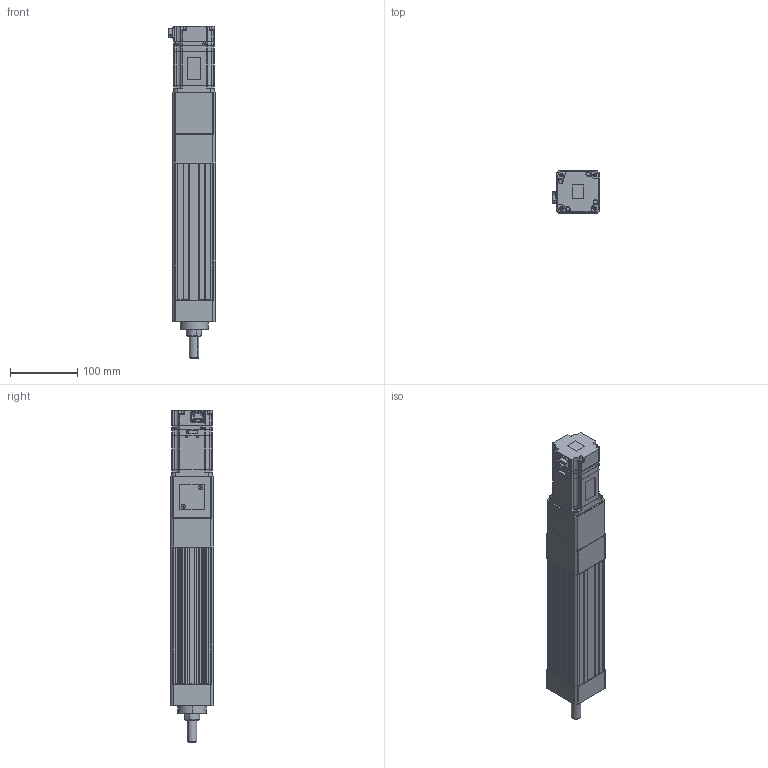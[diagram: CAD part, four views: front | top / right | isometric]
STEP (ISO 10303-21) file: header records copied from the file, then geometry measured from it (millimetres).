
FILE_DESCRIPTION (( 'STEP AP203' ), '1' );
FILE_NAME ('ANS065R-S100-05(10)(20)-W40-M.STEP', '2019-03-02T12:14:53', ( 'user' ), ( '' ), 'SwSTEP 2.0', 'SolidWorks 2013', '' );
FILE_SCHEMA (( 'CONFIG_CONTROL_DESIGN' ));
Length unit declared in the file: millimetre
Products named in the file (4): ANS065 ROD ST100-M; ANS065R-S100-05(10)(20)-W40-M; ANS065R S100 VER2; sgmjv_04a_a21
Assembly tree (3 placements, depth 2):
  ANS065R-S100-05(10)(20)-W40-M
    ANS065R S100 VER2
    sgmjv_04a_a21
    ANS065 ROD ST100-M
Bounding box: 71.3 x 65 x 494.6 mm (x, y, z)
Volume: 1230995.1 mm3; surface area: 243989.9 mm2
Topology: 3 solids, 7 shells, 1080 faces, 2853 edges, 1837 vertices
Faces by surface type: plane 636, cylinder 358, cone 86
Entity records: 33539 total; most frequent: CARTESIAN_POINT 5970, DIRECTION 5703, ORIENTED_EDGE 5658, EDGE_CURVE 2829, VECTOR 1999, LINE 1999, AXIS2_PLACEMENT_3D 1852, VERTEX_POINT 1837
